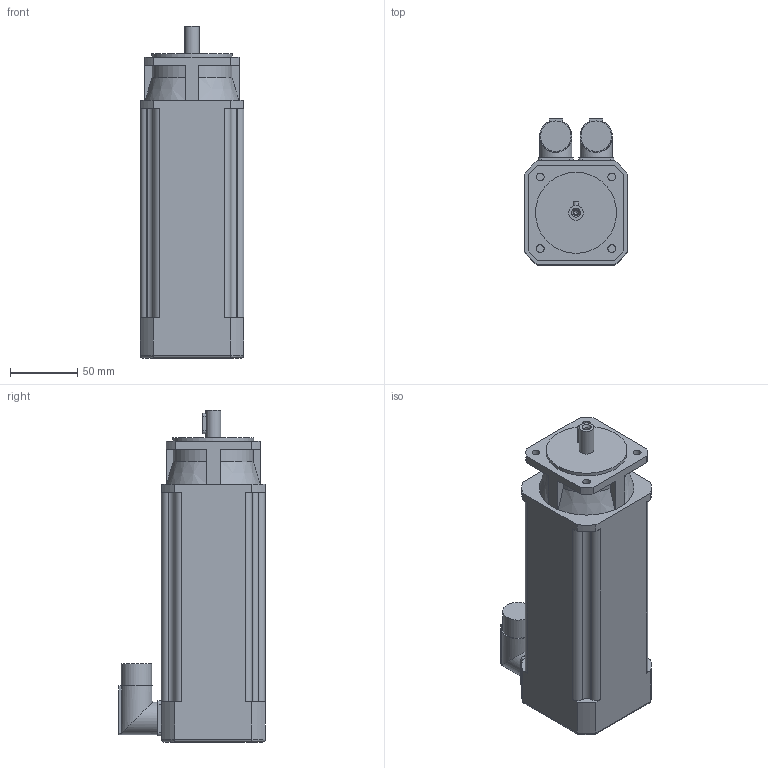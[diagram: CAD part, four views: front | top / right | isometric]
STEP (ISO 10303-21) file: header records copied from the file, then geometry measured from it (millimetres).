
FILE_DESCRIPTION(/* description */ (''),/* implementation_level */ '2;1');
FILE_NAME(/* name */ '\\Lafnas01\disegni\Archivi Lafert\3D\CAD 3D\MODELLI\Assiemi clienti\Serad\Modelli 3D Serad\B36I\Resolver\Res With Brake\B36E8Ixx6B052033.ipt.stp',/* time_stamp */ '2015-09-07T10:49:10+02:00',/* author */ ('Pastrello Ylenia'),/* organization */ (''),/* preprocessor_version */ 'ST-DEVELOPER v15.6',/* originating_system */ 'Autodesk Inventor 2015',/* authorisation */ '');
FILE_SCHEMA (('AUTOMOTIVE_DESIGN { 1 0 10303 214 3 1 1 }'));
Length unit declared in the file: millimetre
Products named in the file (1): B36E8Ixx6B052033
Bounding box: 77 x 108.5 x 246 mm (x, y, z)
Volume: 1240334.4 mm3; surface area: 87116.7 mm2
Topology: 1 solids, 1 shells, 137 faces, 372 edges, 244 vertices
Faces by surface type: plane 66, cylinder 56, cone 11, torus 4
Full cylindrical faces by diameter (mm): 3.242 x1, 4.3 x1, 5.8 x4, 11 x1, 22.7 x2, 24 x2, 60 x1
Entity records: 4352 total; most frequent: CARTESIAN_POINT 890, DIRECTION 726, ORIENTED_EDGE 702, EDGE_CURVE 351, AXIS2_PLACEMENT_3D 259, VERTEX_POINT 239, LINE 208, VECTOR 208
